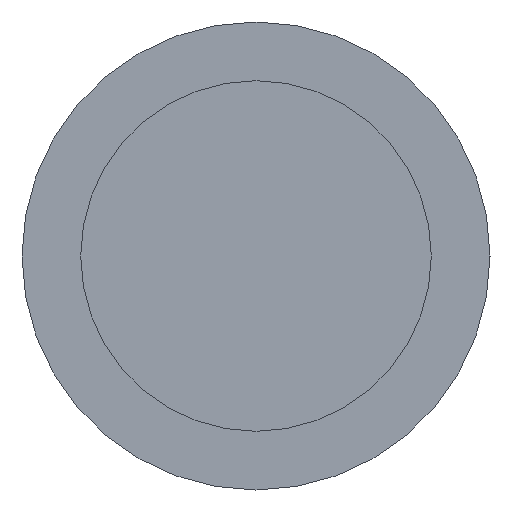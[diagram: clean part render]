
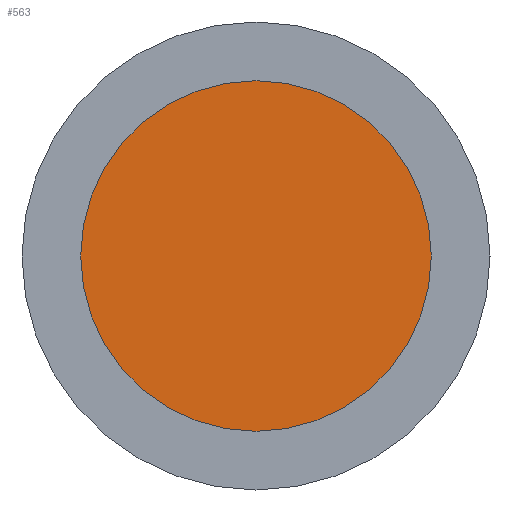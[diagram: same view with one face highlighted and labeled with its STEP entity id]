
A CAD part, left-side view. The second image highlights one B-rep face of the part: STEP entity #563.
In plain terms, the highlighted planar face has unit normal (-1, 0, 0).
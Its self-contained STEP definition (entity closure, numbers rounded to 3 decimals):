
#148=ORIENTED_EDGE('',*,*,#206,.T.);
#206=EDGE_CURVE('',#256,#256,#306,.T.);
#256=VERTEX_POINT('',#1018);
#306=CIRCLE('',#669,20.6);
#398=EDGE_LOOP('',(#148));
#498=FACE_BOUND('',#398,.T.);
#517=PLANE('',#670);
#563=ADVANCED_FACE('',(#498),#517,.F.);
#669=AXIS2_PLACEMENT_3D('',#1017,#856,#857);
#670=AXIS2_PLACEMENT_3D('',#1019,#858,#859);
#856=DIRECTION('',(-1.,0.,0.));
#857=DIRECTION('',(0.,0.,1.));
#858=DIRECTION('',(1.,0.,0.));
#859=DIRECTION('',(0.,0.,-1.));
#1017=CARTESIAN_POINT('',(-57.5,0.,0.));
#1018=CARTESIAN_POINT('',(-57.5,0.,20.6));
#1019=CARTESIAN_POINT('',(-57.5,0.,20.6));
